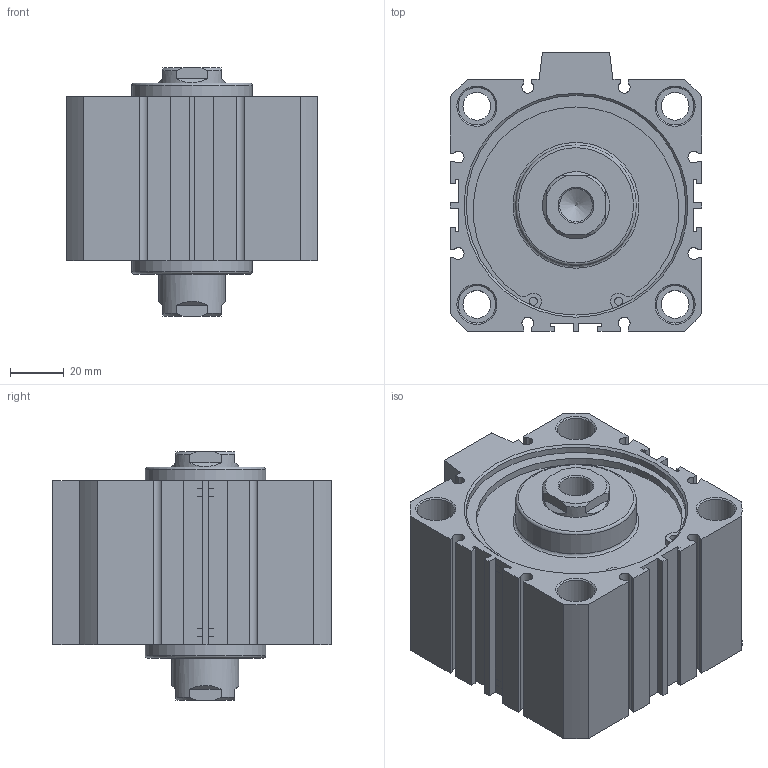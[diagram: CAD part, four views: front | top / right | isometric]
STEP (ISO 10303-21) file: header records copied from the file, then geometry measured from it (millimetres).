
FILE_DESCRIPTION((''),'2;1');
FILE_NAME('I:\3D電子目錄\氣缸\JDD\JDD-S\JDD80-S\JDD80x10-S.stp','2007-02-09T08:59:31',('662F206'),(''),'Autodesk Inventor 10','Autodesk Inventor 10','');
FILE_SCHEMA(('AUTOMOTIVE_DESIGN { 1 0 10303 214 1 1 1 1 }'));
Length unit declared in the file: millimetre
Products named in the file (3): JDD80-S; R 形環 82
Assembly tree (3 placements, depth 2):
  JDD80-S
    JDD80-S
    R 形環 82  x2
Bounding box: 94 x 104 x 92.7 mm (x, y, z)
Volume: 486108 mm3; surface area: 76928.7 mm2
Topology: 3 solids, 3 shells, 200 faces, 502 edges, 330 vertices
Faces by surface type: plane 116, cylinder 52, cone 24, bspline 6, torus 2
Full cylindrical faces by diameter (mm): 3.1 x4, 3.5 x2, 10.4 x4, 14 x8, 25 x2, 45 x2, 82 x4, 85.5 x2
Entity records: 5511 total; most frequent: CARTESIAN_POINT 1094, DIRECTION 908, ORIENTED_EDGE 824, EDGE_CURVE 412, AXIS2_PLACEMENT_3D 324, VERTEX_POINT 300, EDGE_LOOP 272, VECTOR 260
